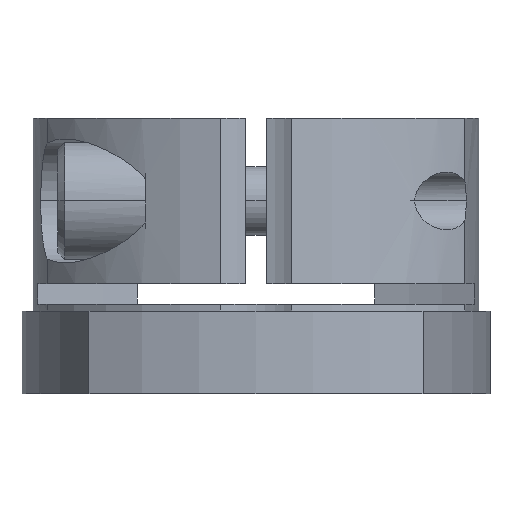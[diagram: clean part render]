
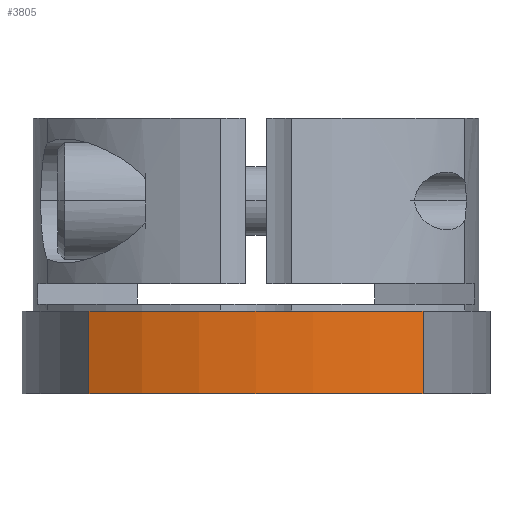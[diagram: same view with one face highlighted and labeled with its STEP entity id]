
A CAD part, front view. The second image highlights one B-rep face of the part: STEP entity #3805.
In plain terms, the highlighted cylindrical face has radius 27.5 mm (diameter 55 mm), a partial arc.
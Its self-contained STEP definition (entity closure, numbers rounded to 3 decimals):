
#3035=CARTESIAN_POINT('',(-12.133,-24.679,3.0));
#3036=VERTEX_POINT('',#3035);
#3044=CARTESIAN_POINT('',(12.133,-24.679,3.0));
#3045=VERTEX_POINT('',#3044);
#3046=CARTESIAN_POINT('',(0.,0.,3.0));
#3047=DIRECTION('',(0.0,0.0,-1.0));
#3048=DIRECTION('',(1.0,0.0,0.0));
#3049=AXIS2_PLACEMENT_3D('',#3046,#3047,#3048);
#3050=CIRCLE('',#3049,27.5);
#3051=EDGE_CURVE('',#3045,#3036,#3050,.T.);
#3659=CARTESIAN_POINT('',(12.133,-24.679,-3.0));
#3660=VERTEX_POINT('',#3659);
#3661=CARTESIAN_POINT('',(-12.133,-24.679,-3.0));
#3662=VERTEX_POINT('',#3661);
#3663=CARTESIAN_POINT('',(0.,0.,-3.0));
#3664=DIRECTION('',(0.0,0.0,-1.0));
#3665=DIRECTION('',(1.0,0.0,0.0));
#3666=AXIS2_PLACEMENT_3D('',#3663,#3664,#3665);
#3667=CIRCLE('',#3666,27.5);
#3668=EDGE_CURVE('',#3660,#3662,#3667,.T.);
#3755=CARTESIAN_POINT('',(-12.133,-24.679,-3.0));
#3756=DIRECTION('',(0.0,0.0,1.0));
#3757=VECTOR('',#3756,6.0);
#3758=LINE('',#3755,#3757);
#3759=EDGE_CURVE('',#3662,#3036,#3758,.T.);
#3784=CARTESIAN_POINT('',(12.133,-24.679,-3.0));
#3785=DIRECTION('',(0.0,0.0,1.0));
#3786=VECTOR('',#3785,6.0);
#3787=LINE('',#3784,#3786);
#3788=EDGE_CURVE('',#3660,#3045,#3787,.T.);
#3794=CARTESIAN_POINT('',(0.,0.,-3.0));
#3795=DIRECTION('',(0.0,0.0,1.0));
#3796=DIRECTION('',(1.0,0.0,0.0));
#3797=AXIS2_PLACEMENT_3D('',#3794,#3795,#3796);
#3798=CYLINDRICAL_SURFACE('',#3797,27.5);
#3799=ORIENTED_EDGE('',*,*,#3051,.T.);
#3800=ORIENTED_EDGE('',*,*,#3759,.F.);
#3801=ORIENTED_EDGE('',*,*,#3668,.F.);
#3802=ORIENTED_EDGE('',*,*,#3788,.T.);
#3803=EDGE_LOOP('',(#3799,#3800,#3801,#3802));
#3804=FACE_OUTER_BOUND('',#3803,.T.);
#3805=ADVANCED_FACE('',(#3804),#3798,.T.);
